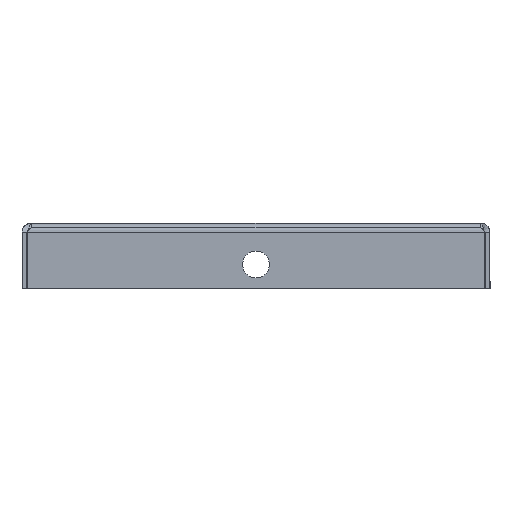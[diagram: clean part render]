
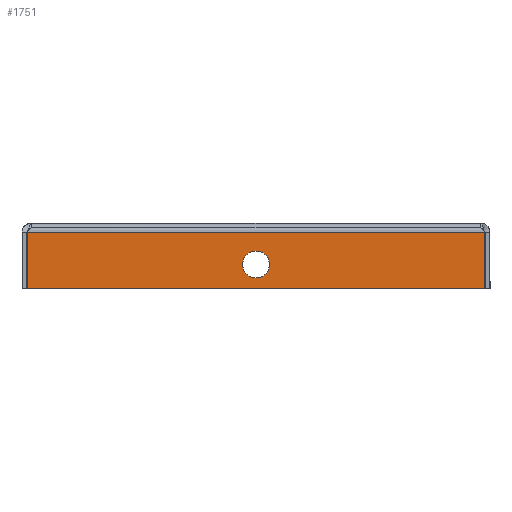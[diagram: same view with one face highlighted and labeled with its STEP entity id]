
A CAD part, front view. The second image highlights one B-rep face of the part: STEP entity #1751.
In plain terms, the highlighted planar face has unit normal (0, -1, 0).
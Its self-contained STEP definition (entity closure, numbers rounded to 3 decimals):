
#11 = CARTESIAN_POINT ( 'NONE',  ( 94.9, 0., -1. ) ) ;
#23 = VERTEX_POINT ( 'NONE', #941 ) ;
#72 = CIRCLE ( 'NONE', #1663, 2.75 ) ;
#155 = CARTESIAN_POINT ( 'NONE',  ( 2., 0., 0. ) ) ;
#219 = EDGE_CURVE ( 'NONE', #23, #1800, #723, .T. ) ;
#227 = EDGE_LOOP ( 'NONE', ( #1577, #2127 ) ) ;
#238 = DIRECTION ( 'NONE',  ( 1., 0., 0. ) ) ;
#254 = EDGE_CURVE ( 'NONE', #1239, #1800, #660, .T. ) ;
#289 = FACE_BOUND ( 'NONE', #227, .T. ) ;
#336 = CARTESIAN_POINT ( 'NONE',  ( 94.9, 0., -12.5 ) ) ;
#367 = DIRECTION ( 'NONE',  ( 0., 1., 0. ) ) ;
#513 = EDGE_CURVE ( 'NONE', #1519, #1984, #72, .T. ) ;
#565 = ORIENTED_EDGE ( 'NONE', *, *, #1888, .F. ) ;
#594 = DIRECTION ( 'NONE',  ( 0., 1., 0. ) ) ;
#624 = VECTOR ( 'NONE', #2053, 1000. ) ;
#660 = LINE ( 'NONE', #1521, #624 ) ;
#723 = LINE ( 'NONE', #2082, #1745 ) ;
#774 = ORIENTED_EDGE ( 'NONE', *, *, #1065, .T. ) ;
#851 = ORIENTED_EDGE ( 'NONE', *, *, #219, .T. ) ;
#941 = CARTESIAN_POINT ( 'NONE',  ( 1.1, 0., -12.5 ) ) ;
#1015 = DIRECTION ( 'NONE',  ( 0., 1., 0. ) ) ;
#1050 = AXIS2_PLACEMENT_3D ( 'NONE', #1726, #1015, #2279 ) ;
#1065 = EDGE_CURVE ( 'NONE', #1632, #23, #2097, .T. ) ;
#1131 = AXIS2_PLACEMENT_3D ( 'NONE', #155, #367, #2397 ) ;
#1239 = VERTEX_POINT ( 'NONE', #11 ) ;
#1265 = DIRECTION ( 'NONE',  ( 0., 0., -1. ) ) ;
#1284 = CARTESIAN_POINT ( 'NONE',  ( 94., 0., -1. ) ) ;
#1288 = PLANE ( 'NONE',  #1131 ) ;
#1314 = VECTOR ( 'NONE', #1265, 1000. ) ;
#1333 = CARTESIAN_POINT ( 'NONE',  ( 48., 0., -7.5 ) ) ;
#1335 = CARTESIAN_POINT ( 'NONE',  ( 48., 0., -4.75 ) ) ;
#1371 = EDGE_LOOP ( 'NONE', ( #565, #774, #851, #2403 ) ) ;
#1437 = LINE ( 'NONE', #1284, #1941 ) ;
#1488 = CIRCLE ( 'NONE', #1050, 2.75 ) ;
#1519 = VERTEX_POINT ( 'NONE', #1759 ) ;
#1521 = CARTESIAN_POINT ( 'NONE',  ( 94.9, 0., -1. ) ) ;
#1577 = ORIENTED_EDGE ( 'NONE', *, *, #2386, .T. ) ;
#1632 = VERTEX_POINT ( 'NONE', #2373 ) ;
#1663 = AXIS2_PLACEMENT_3D ( 'NONE', #1333, #594, #1877 ) ;
#1726 = CARTESIAN_POINT ( 'NONE',  ( 48., 0., -7.5 ) ) ;
#1745 = VECTOR ( 'NONE', #238, 1000. ) ;
#1751 = ADVANCED_FACE ( 'NONE', ( #289, #1887 ), #1288, .F. ) ;
#1759 = CARTESIAN_POINT ( 'NONE',  ( 48., 0., -10.25 ) ) ;
#1800 = VERTEX_POINT ( 'NONE', #336 ) ;
#1877 = DIRECTION ( 'NONE',  ( 0., 0., 1. ) ) ;
#1887 = FACE_OUTER_BOUND ( 'NONE', #1371, .T. ) ;
#1888 = EDGE_CURVE ( 'NONE', #1632, #1239, #1437, .T. ) ;
#1941 = VECTOR ( 'NONE', #2180, 1000. ) ;
#1984 = VERTEX_POINT ( 'NONE', #1335 ) ;
#2053 = DIRECTION ( 'NONE',  ( 0., 0., -1. ) ) ;
#2082 = CARTESIAN_POINT ( 'NONE',  ( 2., 0., -12.5 ) ) ;
#2097 = LINE ( 'NONE', #2322, #1314 ) ;
#2127 = ORIENTED_EDGE ( 'NONE', *, *, #513, .T. ) ;
#2180 = DIRECTION ( 'NONE',  ( 1., 0., 0. ) ) ;
#2279 = DIRECTION ( 'NONE',  ( 0., 0., 1. ) ) ;
#2322 = CARTESIAN_POINT ( 'NONE',  ( 1.1, 0., -1. ) ) ;
#2373 = CARTESIAN_POINT ( 'NONE',  ( 1.1, 0., -1. ) ) ;
#2386 = EDGE_CURVE ( 'NONE', #1984, #1519, #1488, .T. ) ;
#2397 = DIRECTION ( 'NONE',  ( 0., 0., 1. ) ) ;
#2403 = ORIENTED_EDGE ( 'NONE', *, *, #254, .F. ) ;
